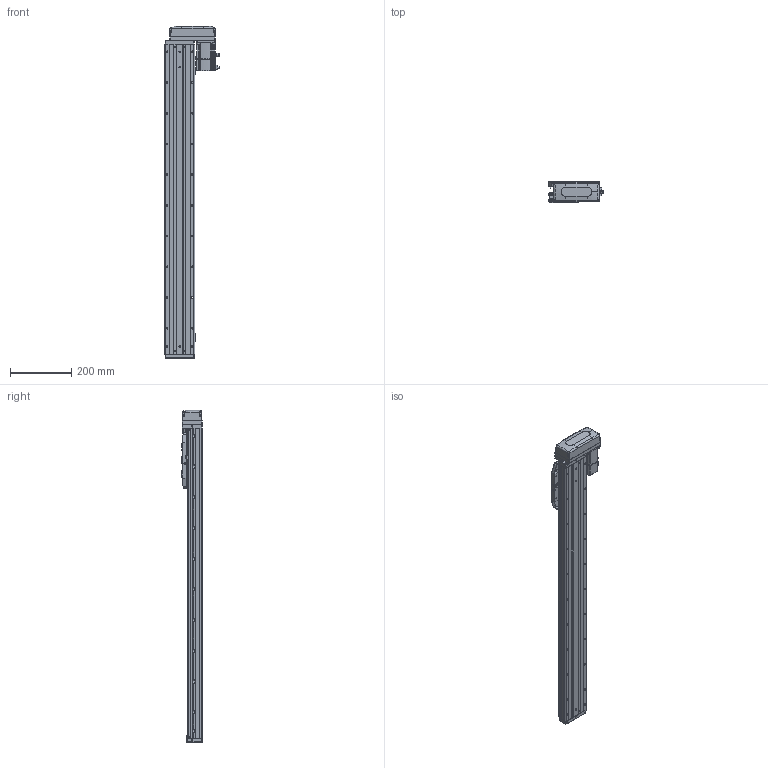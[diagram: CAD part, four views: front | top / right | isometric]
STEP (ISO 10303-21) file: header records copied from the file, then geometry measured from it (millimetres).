
FILE_DESCRIPTION (( 'STEP AP203' ), '1' );
FILE_NAME ('CTHA100-800-BL-M20-C4L.step', '2022-07-06T08:58:43', ( '微软用户' ), ( '微软中国' ), 'SwSTEP 2.0', 'SolidWorks 2020', '' );
FILE_SCHEMA (( 'CONFIG_CONTROL_DESIGN' ));
Length unit declared in the file: millimetre
Products named in the file (19): CTHA60-021; CTHA100-031; GBT77-2000 M3×3; CTHA86-030; GBT 70.1-M3℅6; KTHA100-001_1010; GBT 70.3-M3℅6; KTHA100-005; GBT70.1 M5℅16; KTHA100-004; CTHA86-015-1_CTHA86-015-2; GB¨uT 70.2-M3¡Á5_M3¡Á6; CTHA60-016; CTHA86-033; EE_SX911P_R; _X2_4E0983F1_X0_200W_1; CTHA100-800-BL-M20-C4L; CTHA60-017; CTHA100-002
Assembly tree (64 placements, depth 2):
  CTHA100-800-BL-M20-C4L
    KTHA100-001_1010
    KTHA100-004
    KTHA100-005
    GB¨uT 70.2-M3¡Á5_M3¡Á6  x10
    EE_SX911P_R  x3
    CTHA60-017  x3
    CTHA60-021  x2
    GBT77-2000 M3×3  x6
    GBT 70.1-M3℅6  x10
    GBT70.1 M5℅16  x14
    CTHA60-016  x2
    _X2_4E0983F1_X0_200W_1
    CTHA100-002
    CTHA100-031
    CTHA86-030  x2
    GBT 70.3-M3℅6  x4
    CTHA86-015-1_CTHA86-015-2
    CTHA86-033
Bounding box: 177.7 x 68 x 1081 mm (x, y, z)
Volume: 4413842.3 mm3; surface area: 737581.2 mm2
Topology: 66 solids, 66 shells, 2729 faces, 6583 edges, 4084 vertices
Faces by surface type: plane 1428, cylinder 719, cone 359, torus 124, bspline 75, sphere 24
Entity records: 47930 total; most frequent: CARTESIAN_POINT 9371, DIRECTION 7424, ORIENTED_EDGE 7282, EDGE_CURVE 3641, AXIS2_PLACEMENT_3D 2509, VECTOR 2406, LINE 2406, VERTEX_POINT 2304
